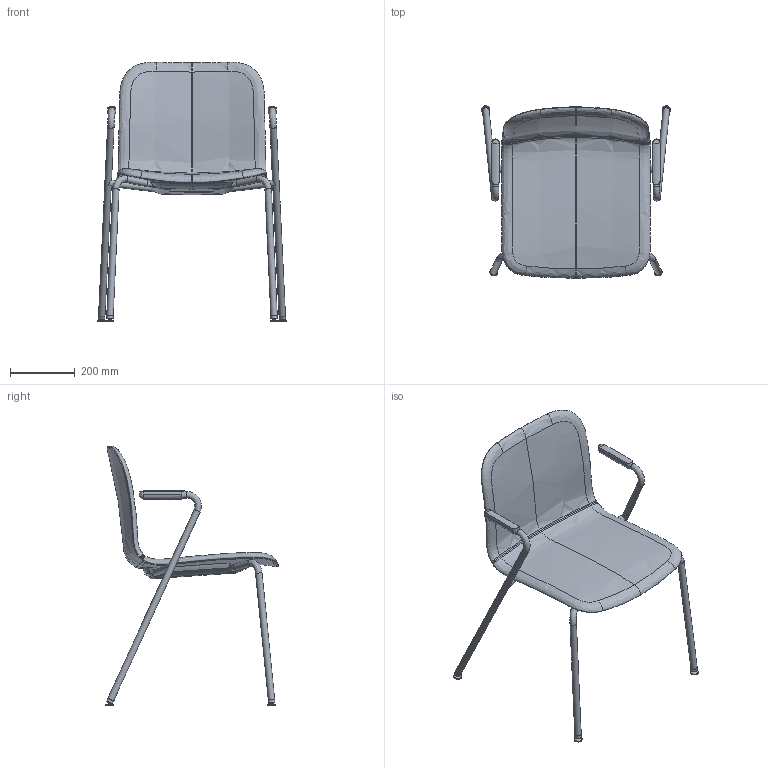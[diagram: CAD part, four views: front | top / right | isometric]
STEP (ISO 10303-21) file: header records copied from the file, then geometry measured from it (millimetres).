
FILE_DESCRIPTION(/* description */ (''),/* implementation_level */ '2;1');
FILE_NAME(/* name */ 'Lambda LA4004-091',/* time_stamp */ '2024-03-04T14:58:02+01:00',/* author */ (''),/* organization */ (''),/* preprocessor_version */ 'ST-DEVELOPER v16.5',/* originating_system */ 'Rhino 7.35',/* authorisation */ '');
FILE_SCHEMA (('CONFIG_CONTROL_DESIGN'));
Length unit declared in the file: millimetre
Products named in the file (1): Document
Bounding box: 583.67 x 534 x 803.72 mm (x, y, z)
Volume: 170440.9 mm3; surface area: 1142074.5 mm2
Topology: 10 solids, 25 shells, 938 faces, 2463 edges, 1630 vertices
Faces by surface type: plane 438, bspline 382, cylinder 118
Full cylindrical faces by diameter (mm): 20 x20, 24.5 x4
Entity records: 86140 total; most frequent: CARTESIAN_POINT 69805, ORIENTED_EDGE 4828, EDGE_CURVE 2450, B_SPLINE_CURVE_WITH_KNOTS 2293, VERTEX_POINT 1624, EDGE_LOOP 1023, ADVANCED_FACE 938, FACE_OUTER_BOUND 938
